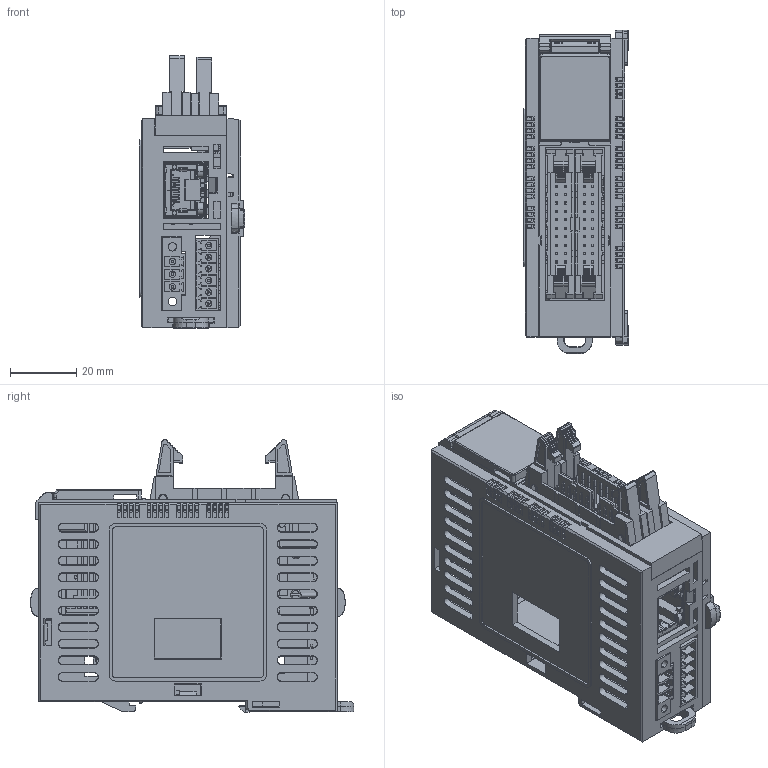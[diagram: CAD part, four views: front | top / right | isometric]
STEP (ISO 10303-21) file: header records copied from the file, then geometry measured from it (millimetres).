
FILE_DESCRIPTION (( 'STEP AP203' ), '1' );
FILE_NAME ('1.STEP', '2017-12-04T03:00:04', ( '' ), ( '' ), 'SwSTEP 2.0', 'SolidWorks 2017', '' );
FILE_SCHEMA (( 'CONFIG_CONTROL_DESIGN' ));
Length unit declared in the file: millimetre
Products named in the file (19): I; 10-2; 9-1; D; 9-2; B; H; A; 10-6; J; 9-3; C; F; 10-4; E; G; 10-5; 10-3; 1
Assembly tree (22 placements, depth 3):
  1
    A
    B  x2
    C
    D
    E
    F
    G  x2
    H
      9-1
      9-2
      9-3
    I
      10-2
      10-3
      10-4
      10-5
      10-6
      9-2
    J  x2
Bounding box: 31.7 x 97.47 x 82.25 mm (x, y, z)
Volume: 44149.3 mm3; surface area: 76388.4 mm2
Topology: 99 solids, 102 shells, 8522 faces, 23555 edges, 15308 vertices
Faces by surface type: plane 6957, cylinder 1316, bspline 194, cone 41, torus 10, sphere 4
Entity records: 237627 total; most frequent: CARTESIAN_POINT 49017, ORIENTED_EDGE 40321, DIRECTION 36177, EDGE_CURVE 20171, LINE 17001, VECTOR 17001, VERTEX_POINT 13144, AXIS2_PLACEMENT_3D 9588
